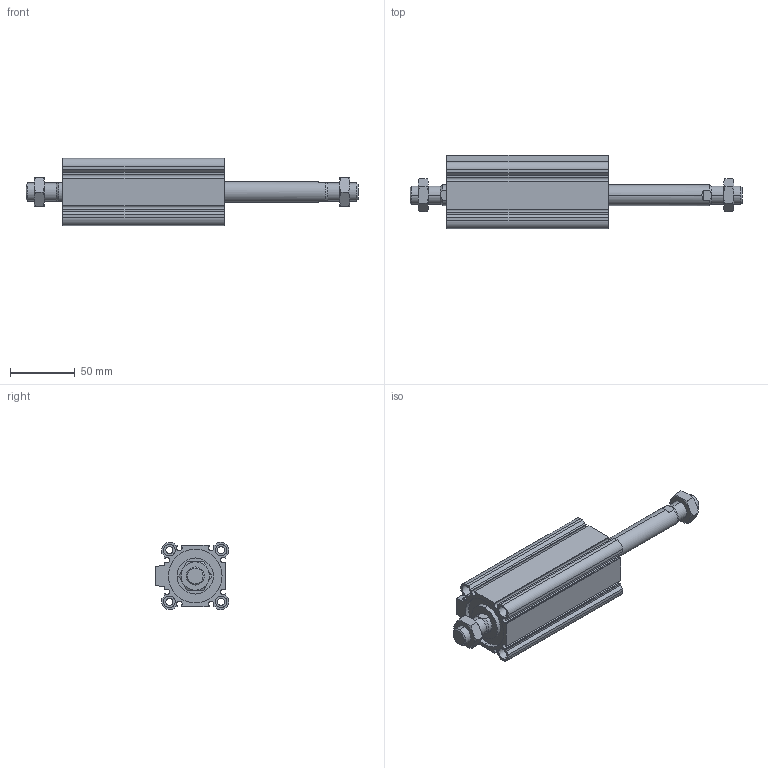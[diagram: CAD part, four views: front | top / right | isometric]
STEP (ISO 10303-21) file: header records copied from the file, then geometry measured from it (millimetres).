
FILE_DESCRIPTION (( 'STEP AP203' ), '1' );
FILE_NAME ('CCMB40-75M-P.STEP', '2020-08-10T11:40:52', ( '' ), ( '' ), 'SwSTEP 2.0', 'SolidWorks 2019', '' );
FILE_SCHEMA (( 'CONFIG_CONTROL_DESIGN' ));
Length unit declared in the file: millimetre
Products named in the file (1): CCMB40-75M-P
Bounding box: 257 x 57 x 52 mm (x, y, z)
Volume: 227250.7 mm3; surface area: 87143.8 mm2
Topology: 4 solids, 4 shells, 216 faces, 522 edges, 332 vertices
Faces by surface type: plane 94, cylinder 78, cone 44
Entity records: 7009 total; most frequent: CARTESIAN_POINT 1819, DIRECTION 1088, ORIENTED_EDGE 1044, EDGE_CURVE 522, AXIS2_PLACEMENT_3D 413, VERTEX_POINT 332, LINE 262, VECTOR 262
